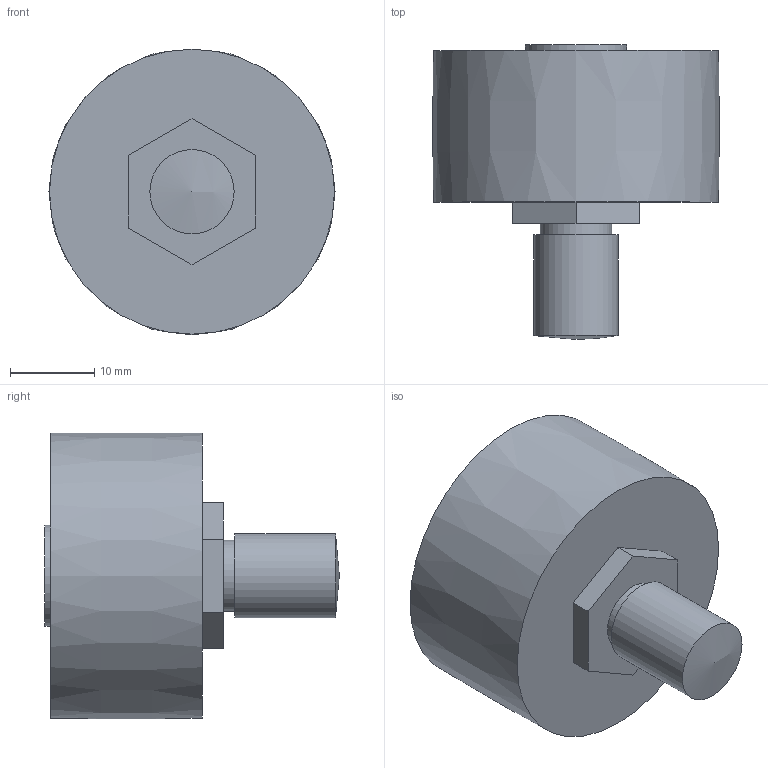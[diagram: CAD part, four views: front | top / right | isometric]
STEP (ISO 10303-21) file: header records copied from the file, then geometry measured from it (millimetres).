
FILE_DESCRIPTION( ( 'STEP AP203' ), '1' );
FILE_NAME( 'p:/temp/worker_134/temp/exporttempdir_5680_163_ibafi/format_0/BHR34C.stp', '2021-09-29T07:20:27', ( 'License CC BY-ND 4.0' ), ( 'CADENAS' ), ' ', 'PARTsolutions', ' ' );
FILE_SCHEMA( ( 'CONFIG_CONTROL_DESIGN' ) );
Length unit declared in the file: millimetre
Products named in the file (2): BHR34C; _BHR34C_C
Assembly tree (1 placements, depth 2):
  BHR34C
    _BHR34C_C
Bounding box: 33.98 x 35 x 33.91 mm (x, y, z)
Volume: 17829.2 mm3; surface area: 4386.5 mm2
Topology: 1 solids, 1 shells, 23 faces, 52 edges, 35 vertices
Faces by surface type: plane 18, cylinder 3, bspline 1, sphere 1
Full cylindrical faces by diameter (mm): 8.466 x1, 10 x1, 12 x1
Entity records: 696 total; most frequent: CARTESIAN_POINT 129, DIRECTION 100, ORIENTED_EDGE 88, EDGE_CURVE 44, LINE 36, VECTOR 36, VERTEX_POINT 33, AXIS2_PLACEMENT_3D 32
